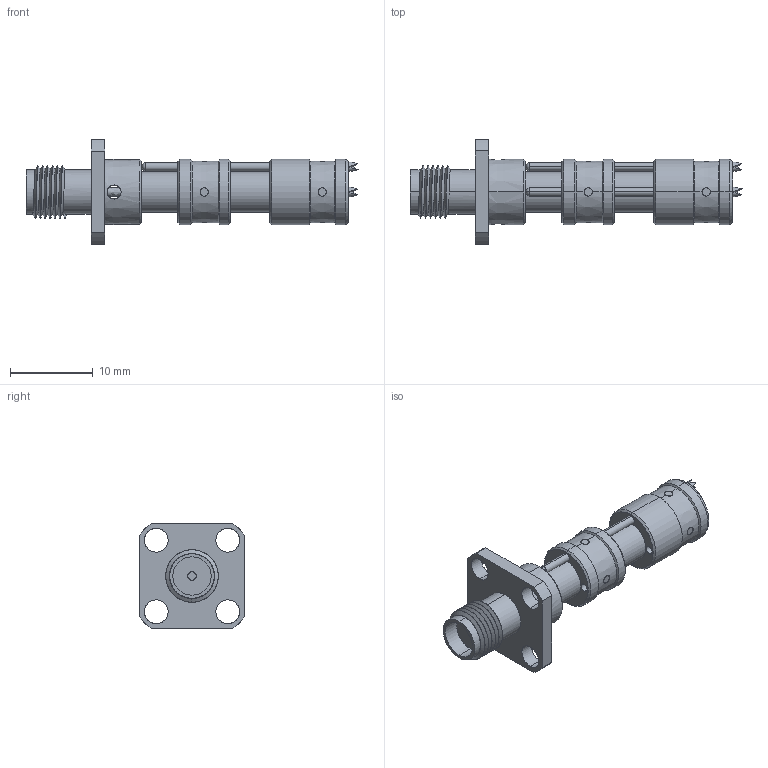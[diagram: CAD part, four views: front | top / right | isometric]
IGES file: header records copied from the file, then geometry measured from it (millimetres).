
Start section: SolidWorks IGES file using analytic representation for surfaces
Global section: file name: Z:\probe solid model mockups\Solidworks models\IGES Files\K-50L-QG IGES files\K-50L-QG Full.IGS; native system: SolidWorks 2006 by SolidWorks Corporation; preprocessor: SolidWorks 2006 by SolidWorks Corporation; author: tsakatani; date: 080107.153319; units: inch
Bounding box: 40.13 x 12.7 x 12.7 mm (x, y, z)
Surface area: 1736.7 mm2 (no closed solid volume)
Topology: 0 solids, 0 shells, 213 faces, 3058 edges, 3054 vertices
Faces by surface type: revolution 147, bspline 66
